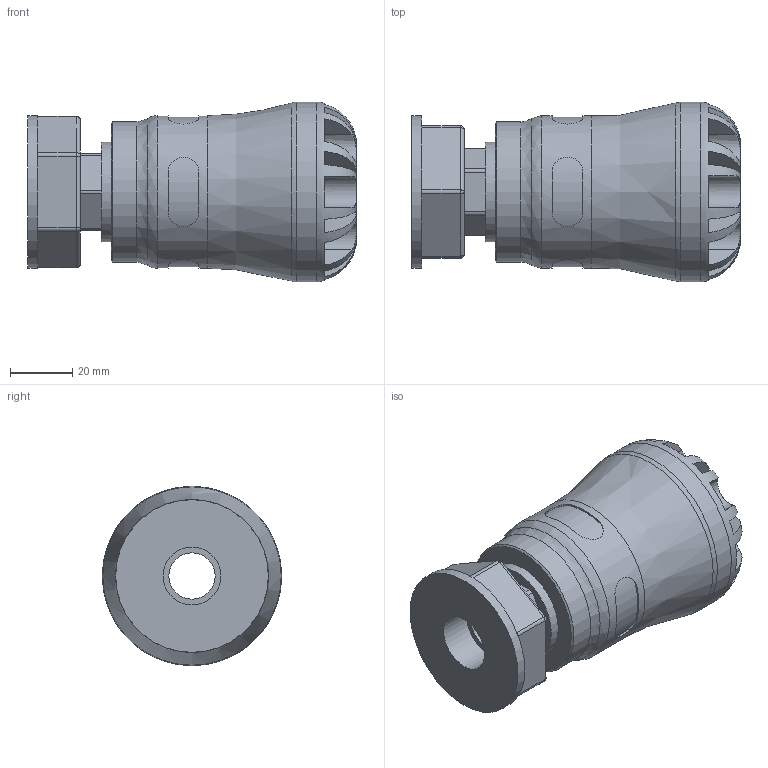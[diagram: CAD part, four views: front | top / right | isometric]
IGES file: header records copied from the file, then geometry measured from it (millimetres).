
Global section: file name: 1003ZR010010.ipt; native system: Autodesk Inventor 2019; preprocessor: unknown; author: KIM; date: 20210902.120252; units: inch
Bounding box: 105.92 x 57.91 x 57.91 mm (x, y, z)
Volume: 142395.6 mm3; surface area: 34989 mm2
Topology: 2 solids, 2 shells, 152 faces, 380 edges, 243 vertices
Faces by surface type: plane 80, cylinder 36, revolution 29, sphere 6, cone 1
Full cylindrical faces by diameter (mm): 18.631 x1, 32.133 x1, 45.171 x1, 49.225 x2, 57.912 x1
